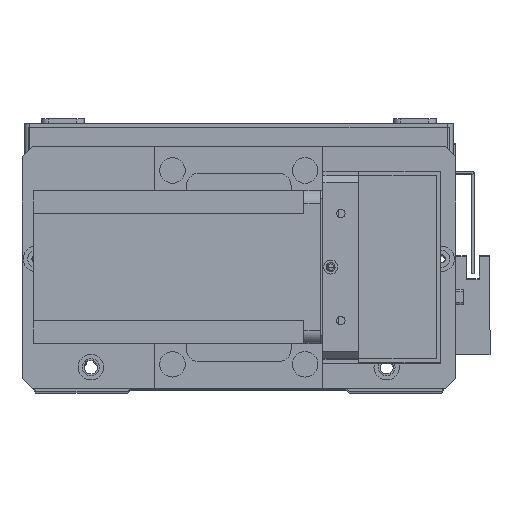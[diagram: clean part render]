
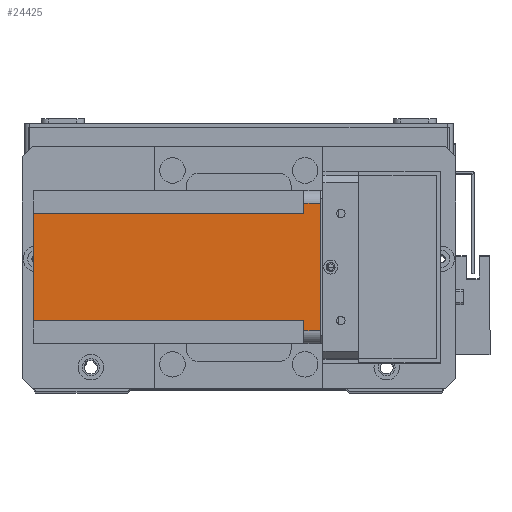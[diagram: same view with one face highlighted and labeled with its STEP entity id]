
A CAD part, top view. The second image highlights one B-rep face of the part: STEP entity #24425.
In plain terms, the highlighted planar face has unit normal (0, 0, 1) as drawn and (-1, 0, 0) by its records, which use the part's own axes.
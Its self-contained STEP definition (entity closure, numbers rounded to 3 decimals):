
#1154 = VECTOR ( 'NONE', #6320, 1000. ) ;
#1595 = ORIENTED_EDGE ( 'NONE', *, *, #3554, .F. ) ;
#1796 = VECTOR ( 'NONE', #3666, 1000. ) ;
#2636 = EDGE_CURVE ( 'NONE', #22625, #8305, #28350, .T. ) ;
#3021 = DIRECTION ( 'NONE',  ( 0., 0., -1. ) ) ;
#3192 = EDGE_CURVE ( 'NONE', #19932, #12908, #19610, .T. ) ;
#3255 = EDGE_CURVE ( 'NONE', #19932, #8305, #21512, .T. ) ;
#3463 = EDGE_CURVE ( 'NONE', #22625, #10950, #14546, .T. ) ;
#3554 = EDGE_CURVE ( 'NONE', #23117, #10950, #21837, .T. ) ;
#3666 = DIRECTION ( 'NONE',  ( 0., 1., 0. ) ) ;
#3850 = EDGE_CURVE ( 'NONE', #6960, #23117, #12750, .T. ) ;
#3949 = EDGE_CURVE ( 'NONE', #6960, #5121, #14417, .T. ) ;
#4090 = EDGE_CURVE ( 'NONE', #12908, #5121, #13003, .T. ) ;
#4316 = CARTESIAN_POINT ( 'NONE',  ( 0., 9., -112.5 ) ) ;
#5121 = VERTEX_POINT ( 'NONE', #29858 ) ;
#5144 = CARTESIAN_POINT ( 'NONE',  ( 0., 5., -112.5 ) ) ;
#5621 = PLANE ( 'NONE',  #11422 ) ;
#5842 = VECTOR ( 'NONE', #12564, 1000. ) ;
#6320 = DIRECTION ( 'NONE',  ( 0., 0., -1. ) ) ;
#6960 = VERTEX_POINT ( 'NONE', #23008 ) ;
#7223 = ORIENTED_EDGE ( 'NONE', *, *, #3192, .F. ) ;
#8305 = VERTEX_POINT ( 'NONE', #25825 ) ;
#8366 = ORIENTED_EDGE ( 'NONE', *, *, #3463, .T. ) ;
#8652 = DIRECTION ( 'NONE',  ( 0., -1., 0. ) ) ;
#8956 = VECTOR ( 'NONE', #3021, 1000. ) ;
#9659 = CARTESIAN_POINT ( 'NONE',  ( 0., 55., -112.5 ) ) ;
#9663 = ORIENTED_EDGE ( 'NONE', *, *, #3255, .T. ) ;
#10336 = DIRECTION ( 'NONE',  ( 0., -1., 0. ) ) ;
#10516 = CARTESIAN_POINT ( 'NONE',  ( 0., 9., -6.5 ) ) ;
#10950 = VERTEX_POINT ( 'NONE', #26616 ) ;
#11422 = AXIS2_PLACEMENT_3D ( 'NONE', #21912, #24243, #10336 ) ;
#11618 = VECTOR ( 'NONE', #14866, 1000. ) ;
#12113 = CARTESIAN_POINT ( 'NONE',  ( 0., 5., -6.5 ) ) ;
#12564 = DIRECTION ( 'NONE',  ( 0., -1., 0. ) ) ;
#12750 = LINE ( 'NONE', #22616, #25460 ) ;
#12908 = VERTEX_POINT ( 'NONE', #10516 ) ;
#13003 = LINE ( 'NONE', #4316, #8956 ) ;
#13436 = CARTESIAN_POINT ( 'NONE',  ( 0., 0., -6.5 ) ) ;
#14339 = CARTESIAN_POINT ( 'NONE',  ( 0., 60., -6.5 ) ) ;
#14417 = LINE ( 'NONE', #15540, #5842 ) ;
#14546 = LINE ( 'NONE', #9659, #1154 ) ;
#14866 = DIRECTION ( 'NONE',  ( 0., 0., 1. ) ) ;
#15540 = CARTESIAN_POINT ( 'NONE',  ( 0., 0., -112.5 ) ) ;
#16493 = ORIENTED_EDGE ( 'NONE', *, *, #2636, .F. ) ;
#17126 = DIRECTION ( 'NONE',  ( 0., 0., 1. ) ) ;
#17983 = CARTESIAN_POINT ( 'NONE',  ( 0., 0., 0. ) ) ;
#18754 = VECTOR ( 'NONE', #8652, 1000. ) ;
#19469 = CARTESIAN_POINT ( 'NONE',  ( 0., 55., 0. ) ) ;
#19610 = LINE ( 'NONE', #13436, #1796 ) ;
#19688 = ORIENTED_EDGE ( 'NONE', *, *, #3949, .T. ) ;
#19932 = VERTEX_POINT ( 'NONE', #12113 ) ;
#19939 = EDGE_LOOP ( 'NONE', ( #7223, #9663, #16493, #8366, #1595, #22351, #19688, #24907 ) ) ;
#21400 = DIRECTION ( 'NONE',  ( 0., 1., 0. ) ) ;
#21436 = CARTESIAN_POINT ( 'NONE',  ( 0., 51., -6.5 ) ) ;
#21512 = LINE ( 'NONE', #5144, #11618 ) ;
#21837 = LINE ( 'NONE', #14339, #27927 ) ;
#21912 = CARTESIAN_POINT ( 'NONE',  ( 0., 0., -112.5 ) ) ;
#22351 = ORIENTED_EDGE ( 'NONE', *, *, #3850, .F. ) ;
#22616 = CARTESIAN_POINT ( 'NONE',  ( 0., 51., -112.5 ) ) ;
#22625 = VERTEX_POINT ( 'NONE', #19469 ) ;
#23008 = CARTESIAN_POINT ( 'NONE',  ( 0., 51., -112.5 ) ) ;
#23117 = VERTEX_POINT ( 'NONE', #21436 ) ;
#24243 = DIRECTION ( 'NONE',  ( -1., 0., 0. ) ) ;
#24425 = ADVANCED_FACE ( 'NONE', ( #28839 ), #5621, .T. ) ;
#24907 = ORIENTED_EDGE ( 'NONE', *, *, #4090, .F. ) ;
#25460 = VECTOR ( 'NONE', #17126, 1000. ) ;
#25825 = CARTESIAN_POINT ( 'NONE',  ( 0., 5., 0. ) ) ;
#26616 = CARTESIAN_POINT ( 'NONE',  ( 0., 55., -6.5 ) ) ;
#27927 = VECTOR ( 'NONE', #21400, 1000. ) ;
#28350 = LINE ( 'NONE', #17983, #18754 ) ;
#28839 = FACE_OUTER_BOUND ( 'NONE', #19939, .T. ) ;
#29858 = CARTESIAN_POINT ( 'NONE',  ( 0., 9., -112.5 ) ) ;
